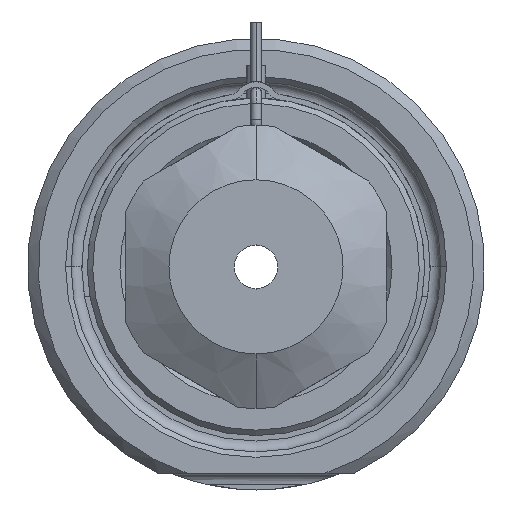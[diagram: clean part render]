
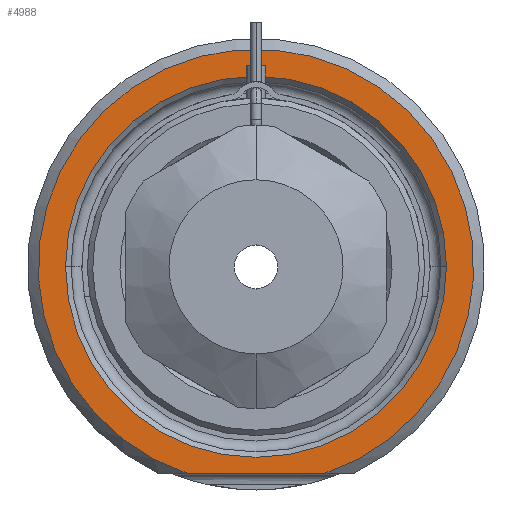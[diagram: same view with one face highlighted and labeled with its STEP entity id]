
A CAD part, front view. The second image highlights one B-rep face of the part: STEP entity #4988.
In plain terms, the highlighted planar face has unit normal (0, -1, 0).
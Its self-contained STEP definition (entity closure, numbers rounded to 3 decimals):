
#1478=DIRECTION('',(1.,0.,0.));
#1479=VECTOR('',#1478,12.49);
#1480=CARTESIAN_POINT('',(-6.245,0.,-19.));
#1481=LINE('',#1480,#1479);
#1482=CARTESIAN_POINT('',(0.,0.,0.));
#1483=DIRECTION('',(0.,1.,0.));
#1484=DIRECTION('',(-1.,0.,0.));
#1485=AXIS2_PLACEMENT_3D('',#1482,#1483,#1484);
#1487=CARTESIAN_POINT('',(0.,0.,0.));
#1488=DIRECTION('',(0.,1.,0.));
#1489=DIRECTION('',(1.,0.,0.));
#1490=AXIS2_PLACEMENT_3D('',#1487,#1488,#1489);
#1596=CARTESIAN_POINT('',(0.,0.,0.));
#1597=DIRECTION('',(0.,-1.,0.));
#1598=DIRECTION('',(0.312,0.,-0.95));
#1599=AXIS2_PLACEMENT_3D('',#1596,#1597,#1598);
#2803=CARTESIAN_POINT('',(-17.5,0.,0.));
#2804=CARTESIAN_POINT('',(17.5,0.,0.));
#2805=VERTEX_POINT('',#2803);
#2806=VERTEX_POINT('',#2804);
#2847=CARTESIAN_POINT('',(-6.245,0.,-19.));
#2848=CARTESIAN_POINT('',(6.245,0.,-19.));
#2849=VERTEX_POINT('',#2847);
#2850=VERTEX_POINT('',#2848);
#4972=CARTESIAN_POINT('',(0.,0.,0.));
#4973=DIRECTION('',(0.,-1.,0.));
#4974=DIRECTION('',(1.,0.,0.));
#4975=AXIS2_PLACEMENT_3D('',#4972,#4973,#4974);
#4976=PLANE('',#4975);
#4978=ORIENTED_EDGE('',*,*,#4977,.F.);
#4980=ORIENTED_EDGE('',*,*,#4979,.F.);
#4981=EDGE_LOOP('',(#4978,#4980));
#4982=FACE_OUTER_BOUND('',#4981,.F.);
#4983=ORIENTED_EDGE('',*,*,#4962,.F.);
#4985=ORIENTED_EDGE('',*,*,#4984,.F.);
#4986=EDGE_LOOP('',(#4983,#4985));
#4987=FACE_BOUND('',#4986,.F.);
#4988=ADVANCED_FACE('',(#4982,#4987),#4976,.T.);
#1486=CIRCLE('',#1485,17.5);
#1491=CIRCLE('',#1490,17.5);
#1600=CIRCLE('',#1599,20.);
#4962=EDGE_CURVE('',#2805,#2806,#1486,.T.);
#4977=EDGE_CURVE('',#2849,#2850,#1481,.T.);
#4979=EDGE_CURVE('',#2850,#2849,#1600,.T.);
#4984=EDGE_CURVE('',#2806,#2805,#1491,.T.);
